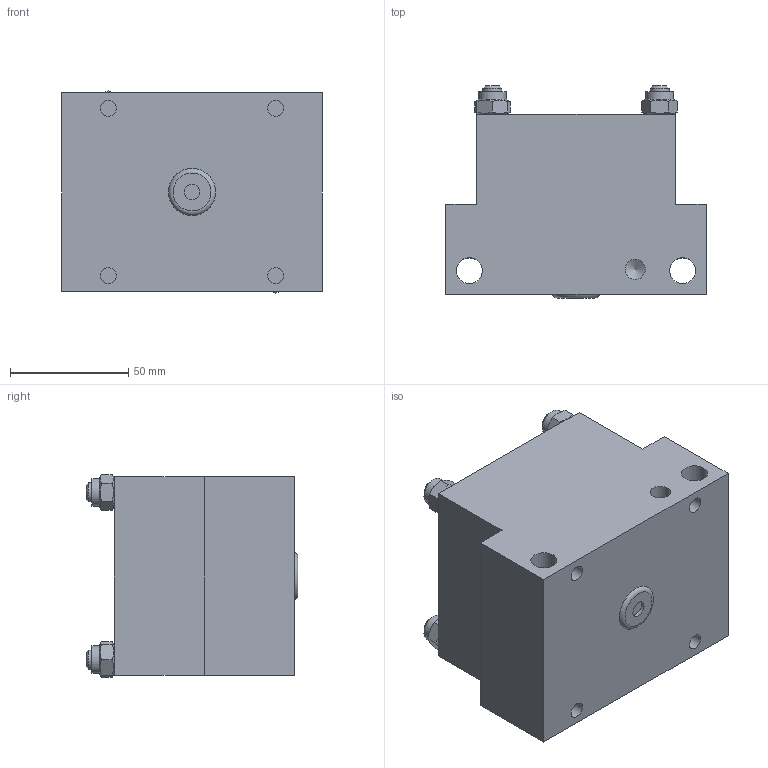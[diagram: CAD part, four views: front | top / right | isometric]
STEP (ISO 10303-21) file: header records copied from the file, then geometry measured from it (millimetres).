
FILE_DESCRIPTION((''),'2;1');
FILE_NAME('C:\VaultWork\Zeichnungen\Maßblätter\Multizylinder\M 75\M75-30\M01788-4-0 Maßblatt Multizylinder M75-2-12.stp','2013-06-17T11:23:41',('Sergeew'),(''),'Autodesk Inventor 2012','Autodesk Inventor 2012','');
FILE_SCHEMA(('AUTOMOTIVE_DESIGN { 1 0 10303 214 1 1 1 1 }'));
Length unit declared in the file: millimetre
Products named in the file (1): M01788-4-0 Maßblatt Multizylinder M75-2-12
Bounding box: 110 x 89.5 x 85.72 mm (x, y, z)
Volume: 601528.2 mm3; surface area: 58899.9 mm2
Topology: 1 solids, 5 shells, 108 faces, 235 edges, 156 vertices
Faces by surface type: plane 61, cylinder 25, cone 21, torus 1
Full cylindrical faces by diameter (mm): 6.647 x5, 8 x8, 8.566 x2, 9 x4, 11 x2, 11.6 x4
Entity records: 2577 total; most frequent: CARTESIAN_POINT 501, DIRECTION 402, ORIENTED_EDGE 328, EDGE_LOOP 178, AXIS2_PLACEMENT_3D 177, EDGE_CURVE 164, VERTEX_POINT 132, FACE_OUTER_BOUND 108
